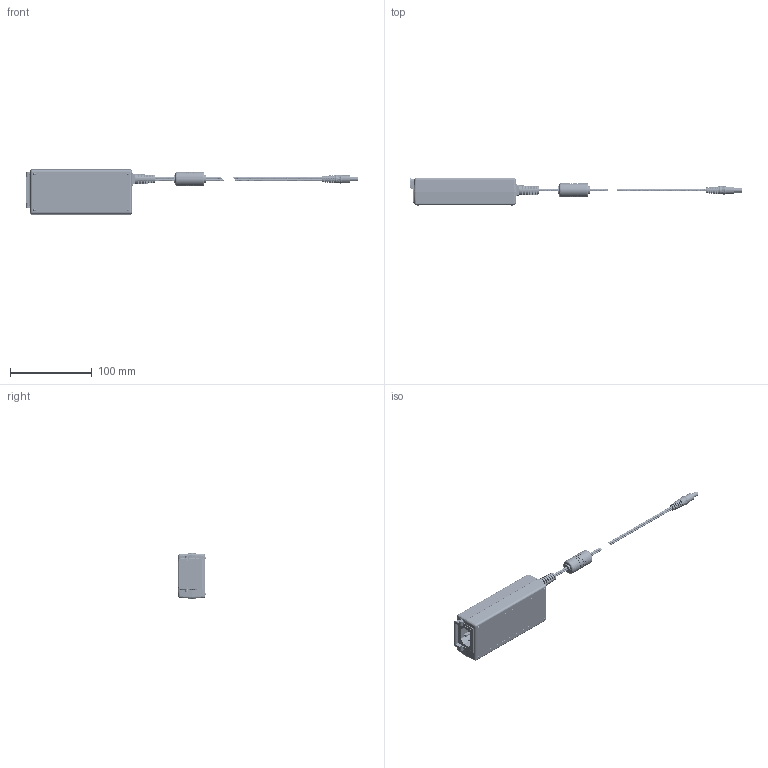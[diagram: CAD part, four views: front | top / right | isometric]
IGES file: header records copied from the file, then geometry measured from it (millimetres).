
Start section: SolidWorks IGES file using analytic representation for surfaces
Global section: file name: S:\RnD\Product\ALM65USXX\01 Standard\Drawing\03 MECHANICAL\SOLIDWORKS\REV A\To website\FA AHM65PSXX.IGS; native system: SolidWorks 2015; preprocessor: SolidWorks 2015; author: Kenny; date: 151203.114203; units: millimetre
Bounding box: 405.68 x 34.2 x 55.5 mm (x, y, z)
Surface area: 182167.9 mm2 (no closed solid volume)
Topology: 0 solids, 0 shells, 4304 faces, 46222 edges, 46191 vertices
Faces by surface type: bspline 2952, revolution 1352
